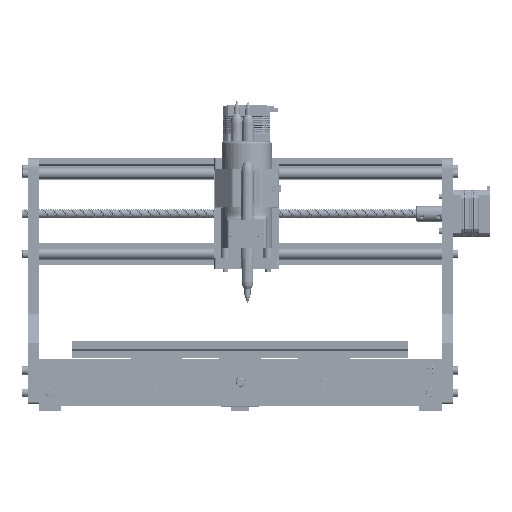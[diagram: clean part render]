
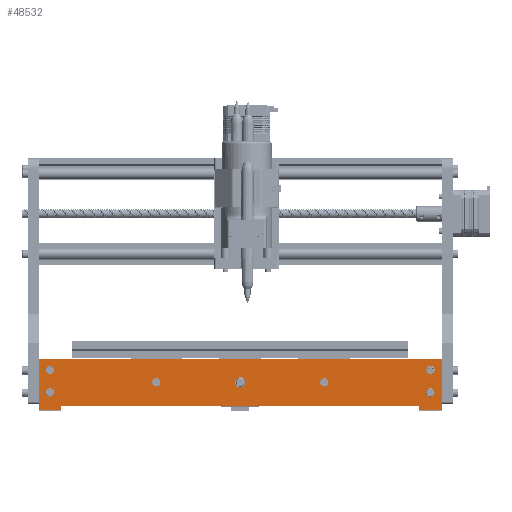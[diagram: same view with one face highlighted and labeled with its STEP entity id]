
A CAD part, top view. The second image highlights one B-rep face of the part: STEP entity #48532.
In plain terms, the highlighted planar face has unit normal (0, 0, 1).
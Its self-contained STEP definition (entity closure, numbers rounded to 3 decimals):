
#3350=FACE_BOUND('',#10439,.T.);
#3351=FACE_BOUND('',#10440,.T.);
#3352=FACE_BOUND('',#10441,.T.);
#3353=FACE_BOUND('',#10442,.T.);
#3354=FACE_BOUND('',#10443,.T.);
#3355=FACE_BOUND('',#10444,.T.);
#3356=FACE_BOUND('',#10445,.T.);
#3663=PLANE('',#52527);
#7723=FACE_OUTER_BOUND('',#10438,.T.);
#10438=EDGE_LOOP('',(#34278,#34279,#34280,#34281,#34282,#34283,#34284,#34285,
#34286,#34287,#34288,#34289,#34290,#34291,#34292,#34293));
#10439=EDGE_LOOP('',(#34294));
#10440=EDGE_LOOP('',(#34295));
#10441=EDGE_LOOP('',(#34296));
#10442=EDGE_LOOP('',(#34297));
#10443=EDGE_LOOP('',(#34298));
#10444=EDGE_LOOP('',(#34299));
#10445=EDGE_LOOP('',(#34300));
#13447=LINE('',#68000,#16971);
#13451=LINE('',#68012,#16975);
#13455=LINE('',#68024,#16979);
#13459=LINE('',#68036,#16983);
#13463=LINE('',#68048,#16987);
#13467=LINE('',#68060,#16991);
#13471=LINE('',#68072,#16995);
#13475=LINE('',#68083,#16999);
#16971=VECTOR('',#56853,1000.);
#16975=VECTOR('',#56865,1000.);
#16979=VECTOR('',#56877,1000.);
#16983=VECTOR('',#56889,1000.);
#16987=VECTOR('',#56901,1000.);
#16991=VECTOR('',#56913,1000.);
#16995=VECTOR('',#56925,1000.);
#16999=VECTOR('',#56937,1000.);
#20337=CIRCLE('',#52475,2.5);
#20339=CIRCLE('',#52478,2.5);
#20341=CIRCLE('',#52481,2.5);
#20343=CIRCLE('',#52484,2.5);
#20345=CIRCLE('',#52487,2.5);
#20347=CIRCLE('',#52490,2.5);
#20349=CIRCLE('',#52493,4.5);
#20350=CIRCLE('',#52495,0.5);
#20352=CIRCLE('',#52499,0.5);
#20354=CIRCLE('',#52503,0.5);
#20356=CIRCLE('',#52507,0.5);
#20358=CIRCLE('',#52511,0.5);
#20360=CIRCLE('',#52515,0.5);
#20362=CIRCLE('',#52519,0.5);
#20364=CIRCLE('',#52523,0.5);
#21311=VERTEX_POINT('',#67950);
#21313=VERTEX_POINT('',#67956);
#21315=VERTEX_POINT('',#67962);
#21317=VERTEX_POINT('',#67968);
#21319=VERTEX_POINT('',#67974);
#21321=VERTEX_POINT('',#67980);
#21323=VERTEX_POINT('',#67986);
#21324=VERTEX_POINT('',#67990);
#21325=VERTEX_POINT('',#67991);
#21328=VERTEX_POINT('',#67999);
#21330=VERTEX_POINT('',#68005);
#21332=VERTEX_POINT('',#68011);
#21334=VERTEX_POINT('',#68017);
#21336=VERTEX_POINT('',#68023);
#21338=VERTEX_POINT('',#68029);
#21340=VERTEX_POINT('',#68035);
#21342=VERTEX_POINT('',#68041);
#21344=VERTEX_POINT('',#68047);
#21346=VERTEX_POINT('',#68053);
#21348=VERTEX_POINT('',#68059);
#21350=VERTEX_POINT('',#68065);
#21352=VERTEX_POINT('',#68071);
#21354=VERTEX_POINT('',#68077);
#26346=EDGE_CURVE('',#21311,#21311,#20337,.T.);
#26349=EDGE_CURVE('',#21313,#21313,#20339,.T.);
#26352=EDGE_CURVE('',#21315,#21315,#20341,.T.);
#26355=EDGE_CURVE('',#21317,#21317,#20343,.T.);
#26358=EDGE_CURVE('',#21319,#21319,#20345,.T.);
#26361=EDGE_CURVE('',#21321,#21321,#20347,.T.);
#26364=EDGE_CURVE('',#21323,#21323,#20349,.T.);
#26365=EDGE_CURVE('',#21324,#21325,#20350,.T.);
#26369=EDGE_CURVE('',#21328,#21324,#13447,.T.);
#26372=EDGE_CURVE('',#21330,#21328,#20352,.T.);
#26375=EDGE_CURVE('',#21332,#21330,#13451,.T.);
#26378=EDGE_CURVE('',#21334,#21332,#20354,.T.);
#26381=EDGE_CURVE('',#21336,#21334,#13455,.T.);
#26384=EDGE_CURVE('',#21338,#21336,#20356,.T.);
#26387=EDGE_CURVE('',#21340,#21338,#13459,.T.);
#26390=EDGE_CURVE('',#21342,#21340,#20358,.T.);
#26393=EDGE_CURVE('',#21344,#21342,#13463,.T.);
#26396=EDGE_CURVE('',#21346,#21344,#20360,.T.);
#26399=EDGE_CURVE('',#21348,#21346,#13467,.T.);
#26402=EDGE_CURVE('',#21350,#21348,#20362,.T.);
#26405=EDGE_CURVE('',#21352,#21350,#13471,.T.);
#26408=EDGE_CURVE('',#21354,#21352,#20364,.T.);
#26411=EDGE_CURVE('',#21325,#21354,#13475,.T.);
#34278=ORIENTED_EDGE('',*,*,#26365,.T.);
#34279=ORIENTED_EDGE('',*,*,#26411,.T.);
#34280=ORIENTED_EDGE('',*,*,#26408,.T.);
#34281=ORIENTED_EDGE('',*,*,#26405,.T.);
#34282=ORIENTED_EDGE('',*,*,#26402,.T.);
#34283=ORIENTED_EDGE('',*,*,#26399,.T.);
#34284=ORIENTED_EDGE('',*,*,#26396,.T.);
#34285=ORIENTED_EDGE('',*,*,#26393,.T.);
#34286=ORIENTED_EDGE('',*,*,#26390,.T.);
#34287=ORIENTED_EDGE('',*,*,#26387,.T.);
#34288=ORIENTED_EDGE('',*,*,#26384,.T.);
#34289=ORIENTED_EDGE('',*,*,#26381,.T.);
#34290=ORIENTED_EDGE('',*,*,#26378,.T.);
#34291=ORIENTED_EDGE('',*,*,#26375,.T.);
#34292=ORIENTED_EDGE('',*,*,#26372,.T.);
#34293=ORIENTED_EDGE('',*,*,#26369,.T.);
#34294=ORIENTED_EDGE('',*,*,#26346,.F.);
#34295=ORIENTED_EDGE('',*,*,#26349,.F.);
#34296=ORIENTED_EDGE('',*,*,#26352,.F.);
#34297=ORIENTED_EDGE('',*,*,#26364,.F.);
#34298=ORIENTED_EDGE('',*,*,#26355,.F.);
#34299=ORIENTED_EDGE('',*,*,#26358,.F.);
#34300=ORIENTED_EDGE('',*,*,#26361,.F.);
#48532=ADVANCED_FACE('',(#7723,#3350,#3351,#3352,#3353,#3354,#3355,#3356),
#3663,.F.);
#52475=AXIS2_PLACEMENT_3D('',#67952,#56799,#56800);
#52478=AXIS2_PLACEMENT_3D('',#67958,#56806,#56807);
#52481=AXIS2_PLACEMENT_3D('',#67964,#56813,#56814);
#52484=AXIS2_PLACEMENT_3D('',#67970,#56820,#56821);
#52487=AXIS2_PLACEMENT_3D('',#67976,#56827,#56828);
#52490=AXIS2_PLACEMENT_3D('',#67982,#56834,#56835);
#52493=AXIS2_PLACEMENT_3D('',#67988,#56841,#56842);
#52495=AXIS2_PLACEMENT_3D('',#67992,#56845,#56846);
#52499=AXIS2_PLACEMENT_3D('',#68006,#56858,#56859);
#52503=AXIS2_PLACEMENT_3D('',#68018,#56870,#56871);
#52507=AXIS2_PLACEMENT_3D('',#68030,#56882,#56883);
#52511=AXIS2_PLACEMENT_3D('',#68042,#56894,#56895);
#52515=AXIS2_PLACEMENT_3D('',#68054,#56906,#56907);
#52519=AXIS2_PLACEMENT_3D('',#68066,#56918,#56919);
#52523=AXIS2_PLACEMENT_3D('',#68078,#56930,#56931);
#52527=AXIS2_PLACEMENT_3D('',#68086,#56941,#56942);
#56799=DIRECTION('center_axis',(0.,0.,1.));
#56800=DIRECTION('ref_axis',(-1.,0.,0.));
#56806=DIRECTION('center_axis',(0.,0.,1.));
#56807=DIRECTION('ref_axis',(-1.,0.,0.));
#56813=DIRECTION('center_axis',(0.,0.,1.));
#56814=DIRECTION('ref_axis',(-1.,0.,0.));
#56820=DIRECTION('center_axis',(0.,0.,1.));
#56821=DIRECTION('ref_axis',(1.,0.,0.));
#56827=DIRECTION('center_axis',(0.,0.,1.));
#56828=DIRECTION('ref_axis',(1.,0.,0.));
#56834=DIRECTION('center_axis',(0.,0.,1.));
#56835=DIRECTION('ref_axis',(1.,0.,0.));
#56841=DIRECTION('center_axis',(0.,0.,1.));
#56842=DIRECTION('ref_axis',(1.,0.,0.));
#56845=DIRECTION('center_axis',(0.,0.,1.));
#56846=DIRECTION('ref_axis',(-1.,0.,0.));
#56853=DIRECTION('',(0.,1.,0.));
#56858=DIRECTION('center_axis',(0.,0.,1.));
#56859=DIRECTION('ref_axis',(1.,0.,0.));
#56865=DIRECTION('',(1.,0.,0.));
#56870=DIRECTION('center_axis',(0.,0.,1.));
#56871=DIRECTION('ref_axis',(-1.,0.,0.));
#56877=DIRECTION('',(0.,-1.,0.));
#56882=DIRECTION('center_axis',(0.,0.,-1.));
#56883=DIRECTION('ref_axis',(1.,0.,0.));
#56889=DIRECTION('',(1.,0.,0.));
#56894=DIRECTION('center_axis',(0.,0.,-1.));
#56895=DIRECTION('ref_axis',(-1.,0.,0.));
#56901=DIRECTION('',(0.,1.,0.));
#56906=DIRECTION('center_axis',(0.,0.,1.));
#56907=DIRECTION('ref_axis',(1.,0.,0.));
#56913=DIRECTION('',(1.,0.,0.));
#56918=DIRECTION('center_axis',(0.,0.,1.));
#56919=DIRECTION('ref_axis',(1.,0.,0.));
#56925=DIRECTION('',(0.,-1.,0.));
#56930=DIRECTION('center_axis',(0.,0.,1.));
#56931=DIRECTION('ref_axis',(1.,0.,0.));
#56937=DIRECTION('',(-1.,0.,0.));
#56941=DIRECTION('center_axis',(0.,0.,-1.));
#56942=DIRECTION('ref_axis',(-1.,0.,0.));
#67950=CARTESIAN_POINT('',(167.5,-7.,0.));
#67952=CARTESIAN_POINT('Origin',(170.,-7.,0.));
#67956=CARTESIAN_POINT('',(167.5,13.,0.));
#67958=CARTESIAN_POINT('Origin',(170.,13.,0.));
#67962=CARTESIAN_POINT('',(72.5,2.,0.));
#67964=CARTESIAN_POINT('Origin',(75.,2.,0.));
#67968=CARTESIAN_POINT('',(-77.5,2.,0.));
#67970=CARTESIAN_POINT('Origin',(-75.,2.,0.));
#67974=CARTESIAN_POINT('',(-172.5,-7.,0.));
#67976=CARTESIAN_POINT('Origin',(-170.,-7.,0.));
#67980=CARTESIAN_POINT('',(-172.5,13.,0.));
#67982=CARTESIAN_POINT('Origin',(-170.,13.,0.));
#67986=CARTESIAN_POINT('',(-4.5,2.,0.));
#67988=CARTESIAN_POINT('Origin',(0.,2.,0.));
#67990=CARTESIAN_POINT('',(180.,22.5,0.));
#67991=CARTESIAN_POINT('',(179.5,23.,0.));
#67992=CARTESIAN_POINT('Origin',(179.5,22.5,0.));
#67999=CARTESIAN_POINT('',(180.,-22.5,0.));
#68000=CARTESIAN_POINT('',(180.,22.5,0.));
#68005=CARTESIAN_POINT('',(179.5,-23.,0.));
#68006=CARTESIAN_POINT('Origin',(179.5,-22.5,0.));
#68011=CARTESIAN_POINT('',(160.5,-23.,0.));
#68012=CARTESIAN_POINT('',(160.5,-23.,0.));
#68017=CARTESIAN_POINT('',(160.,-22.5,0.));
#68018=CARTESIAN_POINT('Origin',(160.5,-22.5,0.));
#68023=CARTESIAN_POINT('',(160.,-19.5,0.));
#68024=CARTESIAN_POINT('',(160.,-19.5,0.));
#68029=CARTESIAN_POINT('',(159.5,-19.,0.));
#68030=CARTESIAN_POINT('Origin',(159.5,-19.5,0.));
#68035=CARTESIAN_POINT('',(-159.5,-19.,0.));
#68036=CARTESIAN_POINT('',(-159.5,-19.,0.));
#68041=CARTESIAN_POINT('',(-160.,-19.5,0.));
#68042=CARTESIAN_POINT('Origin',(-159.5,-19.5,0.));
#68047=CARTESIAN_POINT('',(-160.,-22.5,0.));
#68048=CARTESIAN_POINT('',(-160.,-19.5,0.));
#68053=CARTESIAN_POINT('',(-160.5,-23.,0.));
#68054=CARTESIAN_POINT('Origin',(-160.5,-22.5,0.));
#68059=CARTESIAN_POINT('',(-179.5,-23.,0.));
#68060=CARTESIAN_POINT('',(-179.5,-23.,0.));
#68065=CARTESIAN_POINT('',(-180.,-22.5,0.));
#68066=CARTESIAN_POINT('Origin',(-179.5,-22.5,0.));
#68071=CARTESIAN_POINT('',(-180.,22.5,0.));
#68072=CARTESIAN_POINT('',(-180.,22.5,0.));
#68077=CARTESIAN_POINT('',(-179.5,23.,0.));
#68078=CARTESIAN_POINT('Origin',(-179.5,22.5,0.));
#68083=CARTESIAN_POINT('',(-179.5,23.,0.));
#68086=CARTESIAN_POINT('Origin',(179.5,22.5,0.));
